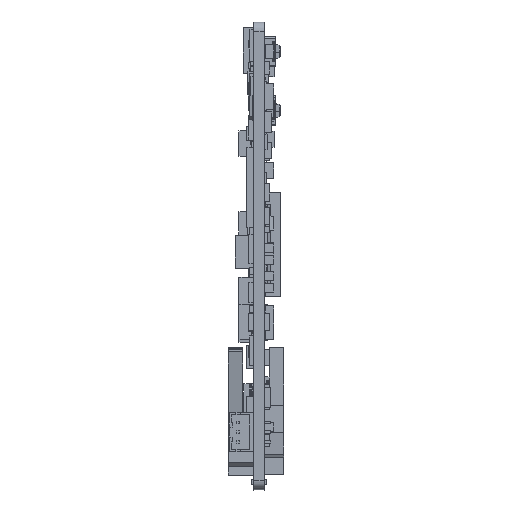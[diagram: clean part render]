
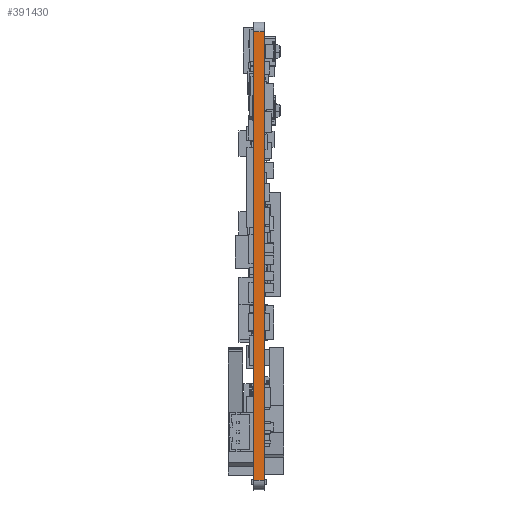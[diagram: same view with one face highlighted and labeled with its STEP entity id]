
A CAD part, left-side view. The second image highlights one B-rep face of the part: STEP entity #391430.
In plain terms, the highlighted planar face has unit normal (-1, 0, 0).
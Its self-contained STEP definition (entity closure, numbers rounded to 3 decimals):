
#6253 = ORIENTED_EDGE ( 'NONE', *, *, #377549, .T. ) ;
#11419 = VECTOR ( 'NONE', #167247, 1000. ) ;
#14813 = CARTESIAN_POINT ( 'NONE',  ( -4., 2.121, 2. ) ) ;
#24836 = CARTESIAN_POINT ( 'NONE',  ( -4., 2.121, -89. ) ) ;
#61409 = PLANE ( 'NONE',  #151550 ) ;
#77600 = LINE ( 'NONE', #373859, #426153 ) ;
#84867 = VECTOR ( 'NONE', #154652, 1000. ) ;
#95420 = DIRECTION ( 'NONE',  ( 1., 0., 0. ) ) ;
#123882 = DIRECTION ( 'NONE',  ( 0., -1., 0. ) ) ;
#124383 = FACE_OUTER_BOUND ( 'NONE', #202936, .T. ) ;
#133155 = VERTEX_POINT ( 'NONE', #286485 ) ;
#151550 = AXIS2_PLACEMENT_3D ( 'NONE', #195762, #95420, #331634 ) ;
#154652 = DIRECTION ( 'NONE',  ( 0., 0., 1. ) ) ;
#161762 = VERTEX_POINT ( 'NONE', #375755 ) ;
#167247 = DIRECTION ( 'NONE',  ( 0., 0., 1. ) ) ;
#188924 = ORIENTED_EDGE ( 'NONE', *, *, #388018, .F. ) ;
#191065 = LINE ( 'NONE', #403390, #11419 ) ;
#192758 = EDGE_CURVE ( 'NONE', #327624, #133155, #77600, .T. ) ;
#192988 = ORIENTED_EDGE ( 'NONE', *, *, #192758, .F. ) ;
#195762 = CARTESIAN_POINT ( 'NONE',  ( -4., 2.121, 2. ) ) ;
#198328 = EDGE_CURVE ( 'NONE', #161762, #421736, #342808, .T. ) ;
#202936 = EDGE_LOOP ( 'NONE', ( #6253, #192988, #188924, #395013 ) ) ;
#273429 = DIRECTION ( 'NONE',  ( 0., -1., 0. ) ) ;
#276966 = CARTESIAN_POINT ( 'NONE',  ( -4., 0., -89. ) ) ;
#286485 = CARTESIAN_POINT ( 'NONE',  ( -4., 0., 2. ) ) ;
#327624 = VERTEX_POINT ( 'NONE', #14813 ) ;
#331634 = DIRECTION ( 'NONE',  ( 0., 0., -1. ) ) ;
#332181 = VECTOR ( 'NONE', #123882, 1000. ) ;
#333068 = LINE ( 'NONE', #356937, #84867 ) ;
#342808 = LINE ( 'NONE', #24836, #332181 ) ;
#356937 = CARTESIAN_POINT ( 'NONE',  ( -4., 2.121, 2. ) ) ;
#373859 = CARTESIAN_POINT ( 'NONE',  ( -4., 2.121, 2. ) ) ;
#375755 = CARTESIAN_POINT ( 'NONE',  ( -4., 2.121, -89. ) ) ;
#377549 = EDGE_CURVE ( 'NONE', #421736, #133155, #191065, .T. ) ;
#388018 = EDGE_CURVE ( 'NONE', #161762, #327624, #333068, .T. ) ;
#391430 = ADVANCED_FACE ( 'NONE', ( #124383 ), #61409, .F. ) ;
#395013 = ORIENTED_EDGE ( 'NONE', *, *, #198328, .T. ) ;
#403390 = CARTESIAN_POINT ( 'NONE',  ( -4., 0., 2. ) ) ;
#421736 = VERTEX_POINT ( 'NONE', #276966 ) ;
#426153 = VECTOR ( 'NONE', #273429, 1000. ) ;
